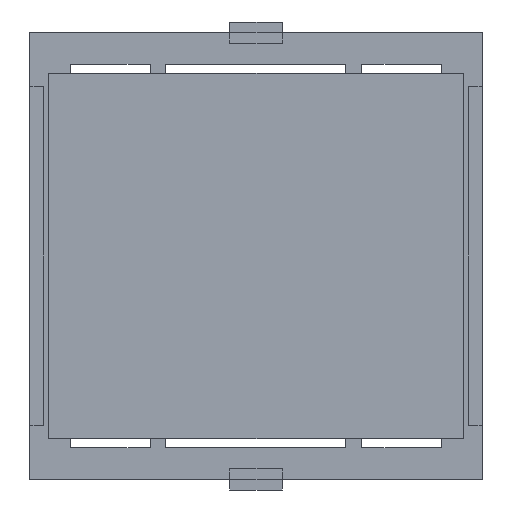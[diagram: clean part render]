
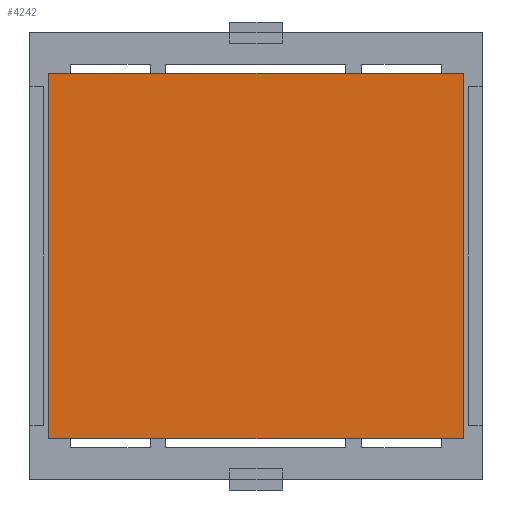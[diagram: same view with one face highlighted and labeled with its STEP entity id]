
A CAD part, front view. The second image highlights one B-rep face of the part: STEP entity #4242.
In plain terms, the highlighted planar face has unit normal (0, -1, 0).
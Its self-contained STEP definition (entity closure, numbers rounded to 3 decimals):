
#388 = DIRECTION ( 'NONE',  ( 1., 0., 0. ) ) ;
#775 = VERTEX_POINT ( 'NONE', #6814 ) ;
#1316 = CARTESIAN_POINT ( 'NONE',  ( 19.558, -0.127, -17.272 ) ) ;
#1882 = VECTOR ( 'NONE', #7301, 1000. ) ;
#2782 = DIRECTION ( 'NONE',  ( 0., 0., 1. ) ) ;
#3420 = CARTESIAN_POINT ( 'NONE',  ( -19.558, -0.127, -17.272 ) ) ;
#3530 = EDGE_CURVE ( 'NONE', #4637, #3989, #5022, .T. ) ;
#3657 = ORIENTED_EDGE ( 'NONE', *, *, #3530, .F. ) ;
#3858 = CARTESIAN_POINT ( 'NONE',  ( -19.558, -0.127, 17.272 ) ) ;
#3919 = ORIENTED_EDGE ( 'NONE', *, *, #5401, .F. ) ;
#3989 = VERTEX_POINT ( 'NONE', #6033 ) ;
#4105 = LINE ( 'NONE', #6840, #6199 ) ;
#4242 = ADVANCED_FACE ( 'NONE', ( #6257 ), #6923, .F. ) ;
#4637 = VERTEX_POINT ( 'NONE', #6899 ) ;
#5011 = AXIS2_PLACEMENT_3D ( 'NONE', #5209, #6816, #5678 ) ;
#5022 = LINE ( 'NONE', #3420, #5246 ) ;
#5209 = CARTESIAN_POINT ( 'NONE',  ( -19.558, -0.127, 17.272 ) ) ;
#5246 = VECTOR ( 'NONE', #2782, 1000. ) ;
#5401 = EDGE_CURVE ( 'NONE', #5520, #4637, #4105, .T. ) ;
#5520 = VERTEX_POINT ( 'NONE', #1316 ) ;
#5527 = LINE ( 'NONE', #3858, #6823 ) ;
#5669 = ORIENTED_EDGE ( 'NONE', *, *, #6672, .F. ) ;
#5678 = DIRECTION ( 'NONE',  ( 0., 0., 1. ) ) ;
#6028 = CARTESIAN_POINT ( 'NONE',  ( 19.558, -0.127, -17.272 ) ) ;
#6033 = CARTESIAN_POINT ( 'NONE',  ( -19.558, -0.127, 17.272 ) ) ;
#6073 = ORIENTED_EDGE ( 'NONE', *, *, #6789, .F. ) ;
#6199 = VECTOR ( 'NONE', #6907, 1000. ) ;
#6257 = FACE_OUTER_BOUND ( 'NONE', #7089, .T. ) ;
#6647 = LINE ( 'NONE', #6028, #1882 ) ;
#6672 = EDGE_CURVE ( 'NONE', #775, #5520, #6647, .T. ) ;
#6789 = EDGE_CURVE ( 'NONE', #3989, #775, #5527, .T. ) ;
#6814 = CARTESIAN_POINT ( 'NONE',  ( 19.558, -0.127, 17.272 ) ) ;
#6816 = DIRECTION ( 'NONE',  ( 0., 1., 0. ) ) ;
#6823 = VECTOR ( 'NONE', #388, 1000. ) ;
#6840 = CARTESIAN_POINT ( 'NONE',  ( -19.558, -0.127, -17.272 ) ) ;
#6899 = CARTESIAN_POINT ( 'NONE',  ( -19.558, -0.127, -17.272 ) ) ;
#6907 = DIRECTION ( 'NONE',  ( -1., 0., 0. ) ) ;
#6923 = PLANE ( 'NONE',  #5011 ) ;
#7089 = EDGE_LOOP ( 'NONE', ( #3657, #3919, #5669, #6073 ) ) ;
#7301 = DIRECTION ( 'NONE',  ( 0., 0., -1. ) ) ;
